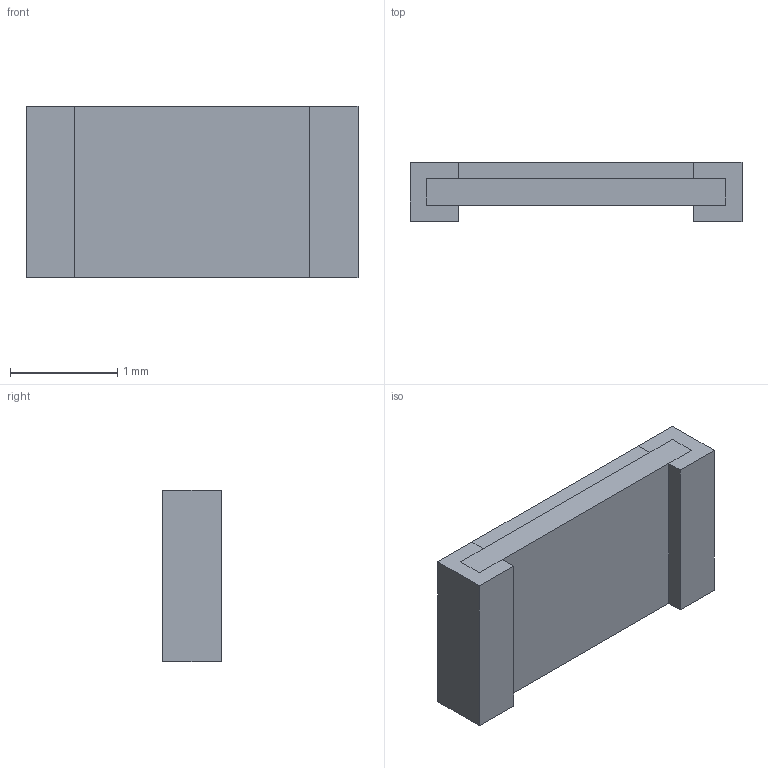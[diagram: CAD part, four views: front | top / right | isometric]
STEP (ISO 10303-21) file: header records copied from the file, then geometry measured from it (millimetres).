
FILE_DESCRIPTION(('FreeCAD Model'),'2;1');
FILE_NAME('Open CASCADE Shape Model','2022-02-08T17:23:27',('Author'),( ''),'Open CASCADE STEP processor 7.5','FreeCAD','Unknown');
FILE_SCHEMA(('AUTOMOTIVE_DESIGN { 1 0 10303 214 1 1 1 1 }'));
Length unit declared in the file: millimetre
Products named in the file (1): Pad002
Bounding box: 3.1 x 0.55 x 1.6 mm (x, y, z)
Volume: 2.2 mm3; surface area: 14.9 mm2
Topology: 1 solids, 1 shells, 18 faces, 48 edges, 32 vertices
Faces by surface type: plane 18
Entity records: 1320 total; most frequent: CARTESIAN_POINT 195, DIRECTION 182, LINE 144, VECTOR 144, ORIENTED_EDGE 96, PCURVE 96, DEFINITIONAL_REPRESENTATION 96, EDGE_CURVE 48
